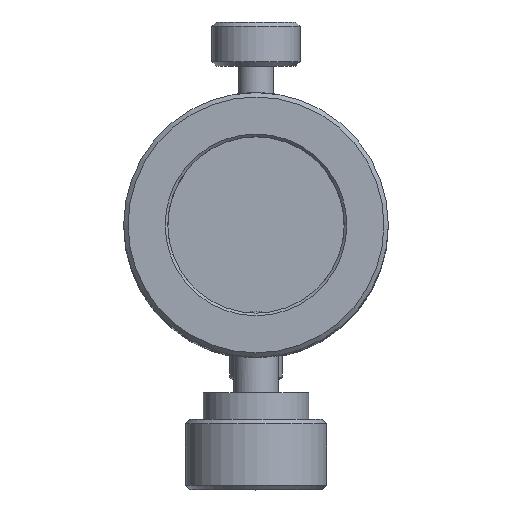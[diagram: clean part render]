
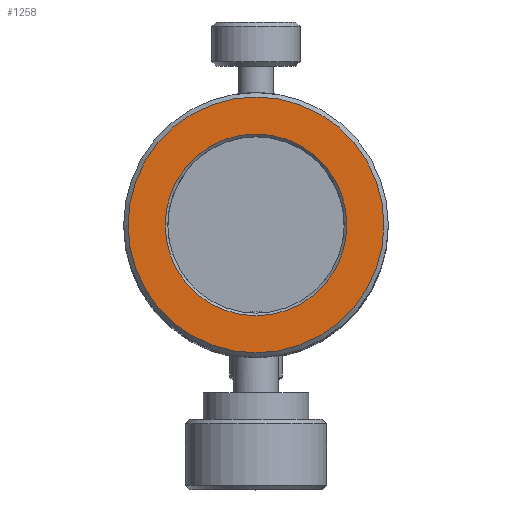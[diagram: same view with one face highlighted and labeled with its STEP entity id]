
A CAD part, top view. The second image highlights one B-rep face of the part: STEP entity #1258.
In plain terms, the highlighted planar face has unit normal (0, 0, 1).
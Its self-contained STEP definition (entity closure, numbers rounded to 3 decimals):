
#19=FACE_BOUND('',#190,.T.);
#62=PLANE('',#1380);
#103=FACE_OUTER_BOUND('',#189,.T.);
#189=EDGE_LOOP('',(#845));
#190=EDGE_LOOP('',(#846));
#296=CIRCLE('',#1379,10.3);
#297=CIRCLE('',#1381,14.5);
#531=VERTEX_POINT('',#2033);
#532=VERTEX_POINT('',#2037);
#648=EDGE_CURVE('',#531,#531,#296,.T.);
#650=EDGE_CURVE('',#532,#532,#297,.T.);
#845=ORIENTED_EDGE('',*,*,#650,.F.);
#846=ORIENTED_EDGE('',*,*,#648,.F.);
#1258=ADVANCED_FACE('',(#103,#19),#62,.F.);
#1379=AXIS2_PLACEMENT_3D('',#2034,#1583,#1584);
#1380=AXIS2_PLACEMENT_3D('',#2036,#1586,#1587);
#1381=AXIS2_PLACEMENT_3D('',#2038,#1588,#1589);
#1583=DIRECTION('center_axis',(0.,0.,1.));
#1584=DIRECTION('ref_axis',(1.,0.,0.));
#1586=DIRECTION('center_axis',(0.,0.,-1.));
#1587=DIRECTION('ref_axis',(1.,0.,0.));
#1588=DIRECTION('center_axis',(0.,0.,-1.));
#1589=DIRECTION('ref_axis',(1.,0.,0.));
#2033=CARTESIAN_POINT('',(-10.3,0.,108.));
#2034=CARTESIAN_POINT('Origin',(0.,0.,108.));
#2036=CARTESIAN_POINT('Origin',(0.,0.,108.));
#2037=CARTESIAN_POINT('',(-14.5,0.,108.));
#2038=CARTESIAN_POINT('Origin',(0.,0.,108.));
